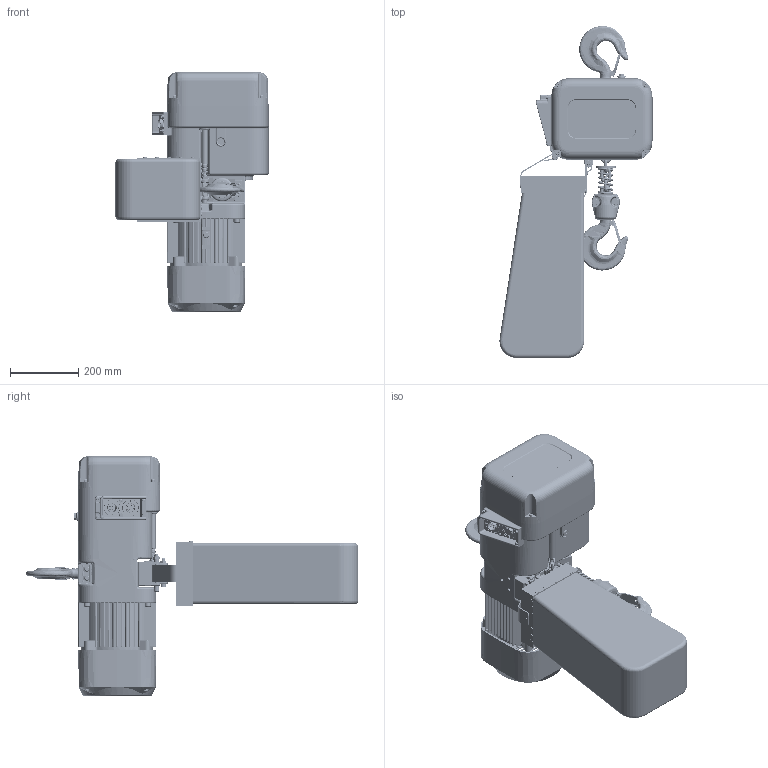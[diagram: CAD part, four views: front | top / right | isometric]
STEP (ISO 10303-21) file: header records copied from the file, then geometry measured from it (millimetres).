
FILE_DESCRIPTION (( 'STEP AP214' ), '1' );
FILE_NAME ('NER2020S.STEP', '2026-08-03T17:57:31', ( '' ), ( '' ), 'SwSTEP 2.0', 'SolidWorks 2026', '' );
FILE_SCHEMA (( 'AUTOMOTIVE_DESIGN' ));
Length unit declared in the file: millimetre
Products named in the file (47): ER2ES9011; J1WS011-20100_Rectangular section spring washer BS 4464 - 16 (Type B); socket head cap screw_am_9091274; single coil rectangular section spring washer_bsi_9012711; BK2E2_for (N)ER2020L; ER2ES1001; 90912104_ 90912104; ER2ES9107_ER2ES9107; ER2ES9337; 9093427_9093427; ER2ES4511; ER2ES9121; ES558003; MS561010; ER2CS9357; ER1ES9054; ER2ES9103; ER2ES9101; NER2020S; ER2ES2015; J1BG10604024_J1BG10604024; ER2ES9105; ER1DL9051; 90912116_90912116; ER2CS9511; ER2BHM20S9A5; ER2ES5405; ER2ES9186; ER2ES9331; ES066075; ER1BS9135; LCER2020NP_8 LINKS; ER2ES1002; ER2ES1011; ER2ES2523; E3S112003; 9091255_9091255; J1BY9-1003526_B18.2.3.1M - Hex cap screw, M10 x 1.5 x 35 --35C; ER2ES9015; ES127005S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
Assembly tree (87 placements, depth 4):
  NER2020S
    ER2ES9104_ER2ES9104
    ER2ES9103
    ER2ES9101
    ER2ES9105
    ER2ES9107_ER2ES9107
    9091255_9091255  x4
    90912116_90912116  x4
    E3S112003
    E3S111003
    ES127005S
    ER1BS9135
    ER2ES1001
      ER2ES9001
      ER2ES1002
    ER2ES9121  x2
    J1BG10604024_J1BG10604024  x4
    ER2ES9186
    ER2ES9331
    single coil rectangular section spring washer_bsi_9012711  x4
    socket head cap screw_am_9091274  x4
    ER2ES9338
    ER2ES9337
    ER2CS9357
    ER2ES1011
      ER2ES9011
      ER2ES1002
      ER2ES2015
        ER2ES9015  x2
        J1BY9-1003526_B18.2.3.1M - Hex cap screw, M10 x 1.5 x 35 --35C  x2
        J1WS011-20100_Rectangular section spring washer BS 4464 - 16 (Type B)  x2
        9093427_9093427  x2
    ER1DL9051
    ER1ES9054
    LCER2020NP_8 LINKS
      LCER2020NP  x8
    ER2ES4511
      ER2CS9511
      MS561010  x6
      ER2ES2523
      ER2CS2564
      ES558003  x8
    ER2BHM20S9A5
    BK2E2_for (N)ER2020L
      ER2ES5405
      90912104_ 90912104
      ES066075  x2
      90912107_B18.3.1M - 10 x 1.5 x 100 Hex SHCS -- 100CHX
Bounding box: 449.77 x 975.24 x 703 mm (x, y, z)
Volume: 35145011.6 mm3; surface area: 2885600.6 mm2
Topology: 93 solids, 94 shells, 5877 faces, 14996 edges, 9166 vertices
Faces by surface type: cylinder 2248, plane 1930, bspline 606, torus 476, cone 379, sphere 238
Entity records: 198829 total; most frequent: CARTESIAN_POINT 81517, ORIENTED_EDGE 23850, DIRECTION 23703, EDGE_CURVE 11925, AXIS2_PLACEMENT_3D 9197, VERTEX_POINT 7460, VECTOR 5309, LINE 5309
